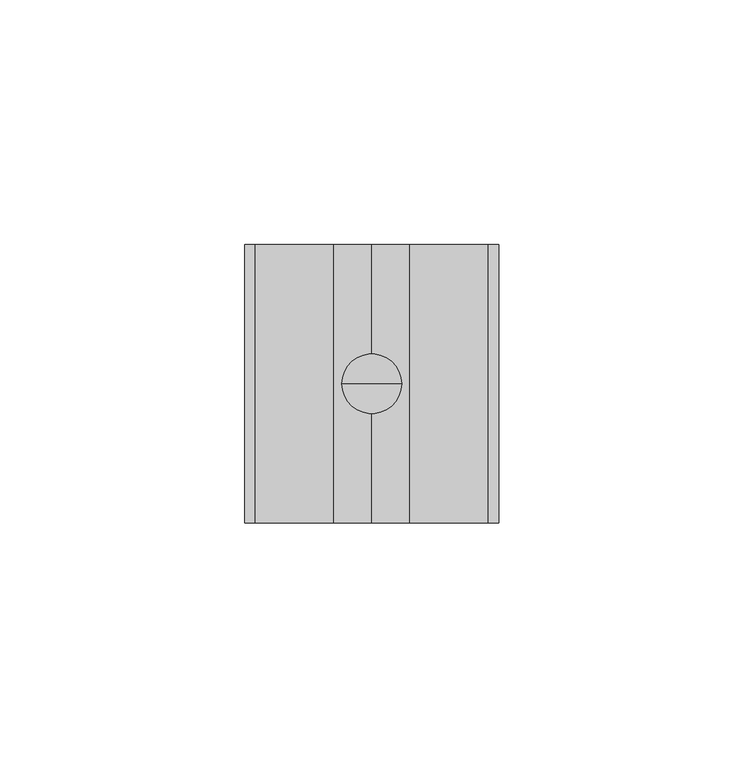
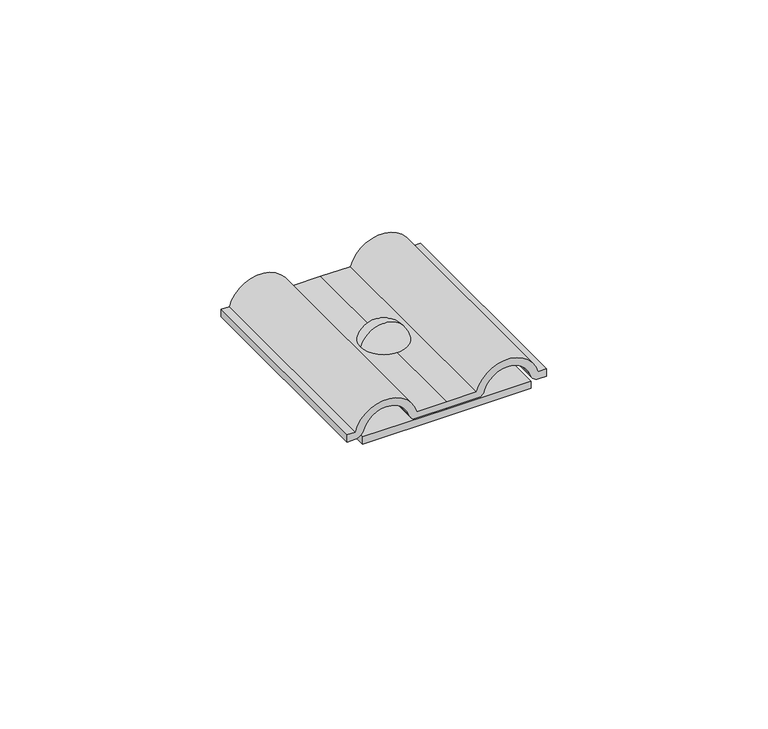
"""IFC4 building model written with IfcOpenShell, lengths in millimetres: proxy geometry, КНС_ПараллельныйЗажим_DKC : NG3108CC_Омедненная сталь."""

import ifcopenshell
import ifcopenshell.guid

model = None  # the IFC model being written
_history = None  # IfcOwnerHistory: only IFC2X3 demands one
_inside = {}  # id of a spatial element -> (the spatial element, [elements in it])
_under = {}  # id of a project, library or spatial element -> (it, [spatial elements below it])
_declared = {}  # id of a project -> (the project, [libraries it declares])
_typed = {}  # id of a type object -> (the type object, [elements of that type])
_made_of = {}  # id of a material, layer set ... -> (it, [elements and type objects made of it])


def new_model(schema):
    """Start an empty IFC model of exactly this schema.

    Asked for "IFC4X3", IfcOpenShell would pick the latest addendum, in which some entities
    have other attributes; the version numbers below select the first issue.
    IFC2X3 requires an IfcOwnerHistory on every rooted entity: one is made here for all.
    """
    global model, _history
    if schema == "IFC4X3":
        model = ifcopenshell.file(schema_version=(4, 3, 0, 0))
    else:
        model = ifcopenshell.file(schema=schema)
    _inside.clear()
    _under.clear()
    _declared.clear()
    _typed.clear()
    _made_of.clear()
    _history = None
    if model.schema == "IFC2X3":
        org = make("IfcOrganization", Name="unknown")
        user = make(
            "IfcPersonAndOrganization",
            ThePerson=make("IfcPerson", FamilyName="unknown"),
            TheOrganization=org,
        )
        app = make(
            "IfcApplication",
            ApplicationDeveloper=org,
            Version="unknown",
            ApplicationFullName="unknown",
            ApplicationIdentifier="unknown",
        )
        _history = make(
            "IfcOwnerHistory",
            OwningUser=user,
            OwningApplication=app,
            ChangeAction="ADDED",
            CreationDate=0,
        )
    return model


def make(cls, **values):
    """One entity of the class cls with the attributes given. An attribute that is None is left unset."""
    return model.create_entity(
        cls, **{name: value for name, value in values.items() if value is not None}
    )


def rooted(cls, **values):
    """An entity with a GlobalId (a new one), such as an element, a storey or a relation."""
    return make(cls, GlobalId=ifcopenshell.guid.new(), OwnerHistory=_history, **values)


def si_unit(unit_type, name, prefix=None):
    """IfcSIUnit, for example si_unit("LENGTHUNIT", "METRE", prefix="MILLI")."""
    return make("IfcSIUnit", UnitType=unit_type, Prefix=prefix, Name=name)


def assignment(units):
    """IfcUnitAssignment: the units of a project."""
    return None if units is None else make("IfcUnitAssignment", Units=units)


def point(xyz):
    """IfcCartesianPoint."""
    return None if xyz is None else make("IfcCartesianPoint", Coordinates=xyz)


def direction(xyz):
    """IfcDirection."""
    return None if xyz is None else make("IfcDirection", DirectionRatios=xyz)


def frame(location, z_axis=None, x_axis=None):
    """IfcAxis2Placement3D, a coordinate frame: its origin and axes. An axis left out is left unset."""
    return make(
        "IfcAxis2Placement3D",
        Location=point(location),
        Axis=direction(z_axis),
        RefDirection=direction(x_axis),
    )


def frame_2d(location, x_axis=None):
    """IfcAxis2Placement2D, a coordinate frame in the plane: its origin and x axis."""
    return make(
        "IfcAxis2Placement2D", Location=point(location), RefDirection=direction(x_axis)
    )


def origin():
    """The frame at (0, 0, 0) with its axes left unset."""
    return frame((0.0, 0.0, 0.0))


def place(relative_to, where):
    """IfcLocalPlacement: puts the frame where relative to a parent placement (None: the world)."""
    return make(
        "IfcLocalPlacement", PlacementRelTo=relative_to, RelativePlacement=where
    )


def context(
    kind, dimensions, precision=None, world=None, true_north=None, identifier=None
):
    """IfcGeometricRepresentationContext, for example the 3D "Model" context."""
    return make(
        "IfcGeometricRepresentationContext",
        ContextIdentifier=identifier,
        ContextType=kind,
        CoordinateSpaceDimension=dimensions,
        Precision=precision,
        WorldCoordinateSystem=world,
        TrueNorth=true_north,
    )


def project(units=None, contexts=None):
    """IfcProject with its units and contexts."""
    return rooted(
        "IfcProject",
        Name="project",
        RepresentationContexts=contexts,
        UnitsInContext=assignment(units),
    )


def spatial(cls, under=None, at=None, **own):
    """A site, building, storey or space (cls), placed at a placement, below another one or the project."""
    s = rooted(cls, ObjectPlacement=at, **own)
    if under is not None:
        _under.setdefault(under.id(), (under, []))[1].append(s)
    return s


def polyline(points):
    """IfcPolyline through the points."""
    return make("IfcPolyline", Points=[point(p) for p in points])


def circle_curve(where, radius):
    """IfcCircle in the frame where."""
    return make("IfcCircle", Position=where, Radius=radius)


def ellipse_curve(where, semi_axis1, semi_axis2):
    """IfcEllipse in the frame where."""
    return make(
        "IfcEllipse", Position=where, SemiAxis1=semi_axis1, SemiAxis2=semi_axis2
    )


def trimmed(basis, trim1, trim2, sense, master):
    """IfcTrimmedCurve: the piece of a basis curve between two trims."""
    return make(
        "IfcTrimmedCurve",
        BasisCurve=basis,
        Trim1=trim1,
        Trim2=trim2,
        SenseAgreement=sense,
        MasterRepresentation=master,
    )


def segment(curve, same_sense, transition):
    """IfcCompositeCurveSegment."""
    return make(
        "IfcCompositeCurveSegment",
        Transition=transition,
        SameSense=same_sense,
        ParentCurve=curve,
    )


def composite_curve(segments, self_intersect=None):
    """IfcCompositeCurve: segments joined end to end."""
    return make("IfcCompositeCurve", Segments=segments, SelfIntersect=self_intersect)


def outline(outer, holes=None, kind="AREA"):
    """IfcArbitraryClosedProfileDef: a profile drawn as a closed curve; with holes, ...WithVoids."""
    if holes is None:
        return make("IfcArbitraryClosedProfileDef", ProfileType=kind, OuterCurve=outer)
    return make(
        "IfcArbitraryProfileDefWithVoids",
        ProfileType=kind,
        OuterCurve=outer,
        InnerCurves=holes,
    )


def extrude(swept, where, along, depth):
    """IfcExtrudedAreaSolid: the profile swept, set in the frame where, extruded along a direction by depth."""
    return make(
        "IfcExtrudedAreaSolid",
        SweptArea=swept,
        Position=where,
        ExtrudedDirection=direction(along),
        Depth=depth,
    )


def shape(context_of_items, identifier, shape_type, items):
    """IfcShapeRepresentation: the items that make up one representation, for example the "Body"."""
    return make(
        "IfcShapeRepresentation",
        ContextOfItems=context_of_items,
        RepresentationIdentifier=identifier,
        RepresentationType=shape_type,
        Items=items,
    )


def source(mapping_origin, context_of_items, identifier, shape_type, items):
    """IfcRepresentationMap: a shape defined once, which mapped items show again and again."""
    return make(
        "IfcRepresentationMap",
        MappingOrigin=mapping_origin,
        MappedRepresentation=shape(context_of_items, identifier, shape_type, items),
    )


def transform(
    local_origin,
    x_axis=None,
    y_axis=None,
    z_axis=None,
    scale=None,
    scale2=None,
    scale3=None,
    uniform=True,
):
    """IfcCartesianTransformationOperator3D, or its non-uniform kind. x_axis, y_axis, z_axis: its Axis1, 2, 3."""
    if uniform:
        return make(
            "IfcCartesianTransformationOperator3D",
            Axis1=direction(x_axis),
            Axis2=direction(y_axis),
            LocalOrigin=point(local_origin),
            Scale=scale,
            Axis3=direction(z_axis),
        )
    return make(
        "IfcCartesianTransformationOperator3DnonUniform",
        Axis1=direction(x_axis),
        Axis2=direction(y_axis),
        LocalOrigin=point(local_origin),
        Scale=scale,
        Axis3=direction(z_axis),
        Scale2=scale2,
        Scale3=scale3,
    )


def mapped(mapping_source, mapping_target):
    """IfcMappedItem: shows the shape of a source again, moved by a transform."""
    return make(
        "IfcMappedItem", MappingSource=mapping_source, MappingTarget=mapping_target
    )


def made_of(thing, what):
    """Note that an element or type object is made of a material, layer set ...; save() writes the relation."""
    if what is not None:
        _made_of.setdefault(what.id(), (what, []))[1].append(thing)
    return thing


def element(
    cls,
    number,
    at=None,
    inside=None,
    cuts=None,
    type_object=None,
    material=None,
    context=None,
    identifier="Body",
    shape_type=None,
    held_by="IfcProductDefinitionShape",
    body=None,
    shapes=None,
    **own,
):
    """One element of the class cls, such as IfcWall. Its Tag is "e" and its number.

    at: its placement. inside: the storey or other place that contains it. cuts: it is an
    opening in that element (IfcRelVoidsElement). A single representation is given by context,
    identifier, shape_type and body (its items); several are given by shapes. held_by: the class
    of the entity that holds the representations. save() writes the other relations.
    """
    e = rooted(cls, Tag="e%d" % number, ObjectPlacement=at, **own)
    if body is not None:
        shapes = [shape(context, identifier, shape_type, body)]
    if shapes is not None:
        e.Representation = make(held_by, Representations=shapes)
    if inside is not None:
        _inside.setdefault(inside.id(), (inside, []))[1].append(e)
    if cuts is not None:
        rooted(
            "IfcRelVoidsElement", RelatingBuildingElement=cuts, RelatedOpeningElement=e
        )
    if type_object is not None:
        _typed.setdefault(type_object.id(), (type_object, []))[1].append(e)
    return made_of(e, material)


def aggregate(whole, parts):
    """IfcRelAggregates: a whole, such as a stair, and the parts it consists of."""
    return rooted("IfcRelAggregates", RelatingObject=whole, RelatedObjects=parts)


def save(model, path):
    """Write the relations noted so far, then the file.

    IfcRelAggregates (storeys below a building ...), IfcRelContainedInSpatialStructure (elements
    in a storey), IfcRelDefinesByType, IfcRelAssociatesMaterial and IfcRelDeclares: one each for
    every whole, place, type object, material and project.
    """
    for whole, parts in _under.values():
        aggregate(whole, parts)
    for where, things in _inside.values():
        rooted(
            "IfcRelContainedInSpatialStructure",
            RelatedElements=things,
            RelatingStructure=where,
        )
    for kind, things in _typed.values():
        rooted("IfcRelDefinesByType", RelatedObjects=things, RelatingType=kind)
    for what, things in _made_of.values():
        rooted("IfcRelAssociatesMaterial", RelatedObjects=things, RelatingMaterial=what)
    for by, libraries in _declared.values():
        rooted("IfcRelDeclares", RelatingContext=by, RelatedDefinitions=libraries)
    model.write(path)


def plane_surface(at):
    """IfcPlane: the flat surface through the origin of the frame at, square to its z axis."""
    return make("IfcPlane", Position=at)


def cylinder_surface(at, radius):
    """IfcCylindricalSurface: all points at the distance radius from the z axis of the frame at."""
    return make("IfcCylindricalSurface", Position=at, Radius=radius)


def revolved_surface(curve, axis_point, axis_direction):
    """IfcSurfaceOfRevolution: the curve turned about the line through axis_point along axis_direction."""
    return make(
        "IfcSurfaceOfRevolution",
        SweptCurve=make("IfcArbitraryOpenProfileDef", ProfileType="CURVE", Curve=curve),
        AxisPosition=make("IfcAxis1Placement", Location=point(axis_point), Axis=direction(axis_direction)),
    )


def advanced_brep(points, edges, surfaces, faces):
    """IfcAdvancedBrep: a solid bounded by faces that lie on surfaces and meet in shared edges.

    An edge is (start, end): straight between two places in points (the first is 0);
    or (start, end, curve); or (start, end, curve, False) where it runs against its curve.
    A face is (place in surfaces, loops), or (place, loops, False) where it looks against
    its surface's normal. A loop lists edges by number (the first is 1), with a minus sign
    where the edge is run from its end to its start. The first loop is the outer one.
    """
    corners = [point(p) for p in points]
    vertices = [make("IfcVertexPoint", VertexGeometry=c) for c in corners]
    made = []
    for start, end, *more in edges:
        made.append(
            make(
                "IfcEdgeCurve",
                EdgeStart=vertices[start],
                EdgeEnd=vertices[end],
                EdgeGeometry=more[0] if more else make("IfcPolyline", Points=[corners[start], corners[end]]),
                SameSense=more[1] if len(more) > 1 else True,
            )
        )
    hull = []
    for where, loops, *sense in faces:
        bounds = []
        for j, loop in enumerate(loops):
            ring = [make("IfcOrientedEdge", EdgeElement=made[abs(k) - 1], Orientation=k > 0) for k in loop]
            bounds.append(
                make(
                    "IfcFaceOuterBound" if j == 0 else "IfcFaceBound",
                    Bound=make("IfcEdgeLoop", EdgeList=ring),
                    Orientation=True,
                )
            )
        hull.append(make("IfcAdvancedFace", Bounds=bounds, FaceSurface=surfaces[where], SameSense=sense[0] if sense else True))
    return make("IfcAdvancedBrep", Outer=make("IfcClosedShell", CfsFaces=hull))


def security_devices_ac4f3ff4(model_context):
    return source(origin(), model_context, "Body", "SolidModel", [
        advanced_brep(
        [(0.0052023, 0.0, -1.0019399), (3.807283, 0.0, -1.0019399), (-3.7968784, 0.0, -1.0019399), (3.807283, 0.0, -2.9980601), (-3.7968784, 0.0, -2.9980601), (3.807283, 0.0, -17.0), (-3.7968784, 0.0, -17.0), (-3.7968784, 0.0, -7.7938791), (3.807283, 0.0, -7.7938791), (0.0052023, 0.0, -17.0), (6.7568441, 0.0258921, -2.9980601), (3.378422, 5.8774907, -2.9980601), (-3.378422, 5.8774907, -2.9980601), (-6.7568441, 0.0258921, -2.9980601), (-3.378422, -5.8257065, -2.9980601), (3.378422, -5.8257065, -2.9980601), (6.7568441, 0.0258921, -7.7938791), (3.378422, -5.8257065, -7.7938791), (-3.378422, -5.8257065, -7.7938791), (-6.7568441, 0.0258921, -7.7938791), (-3.378422, 5.8774907, -7.7938791), (3.378422, 5.8774907, -7.7938791)],
        [
            (0, 1),
            (1, 2, circle_curve(frame((0.0052023, 0.0, -1.0019399), z_axis=(0.0, 0.0, 1.0), x_axis=(1.0, 0.0, 0.0)), 3.8020807)),
            (2, 0),
            (2, 1, circle_curve(frame((0.0052023, 0.0, -1.0019399), z_axis=(0.0, 0.0, 1.0), x_axis=(1.0, 0.0, 0.0)), 3.8020807)),
            (1, 3),
            (3, 4, circle_curve(frame((0.0052023, 0.0, -2.9980601), z_axis=(0.0, 0.0, 1.0), x_axis=(1.0, 0.0, 0.0)), 3.8020807)),
            (4, 2),
            (5, 6, circle_curve(frame((0.0052023, 0.0, -17.0), z_axis=(0.0, 0.0, 1.0), x_axis=(1.0, 0.0, 0.0)), 3.8020807)),
            (6, 7),
            (7, 8, circle_curve(frame((0.0052023, 0.0, -7.7938791), z_axis=(0.0, 0.0, -1.0), x_axis=(1.0, 0.0, 0.0)), 3.8020807)),
            (8, 5),
            (4, 3, circle_curve(frame((0.0052023, 0.0, -2.9980601), z_axis=(0.0, 0.0, 1.0), x_axis=(1.0, 0.0, 0.0)), 3.8020807)),
            (6, 5, circle_curve(frame((0.0052023, 0.0, -17.0), z_axis=(0.0, 0.0, 1.0), x_axis=(1.0, 0.0, 0.0)), 3.8020807)),
            (8, 7, circle_curve(frame((0.0052023, 0.0, -7.7938791), z_axis=(0.0, 0.0, -1.0), x_axis=(1.0, 0.0, 0.0)), 3.8020807)),
            (5, 9),
            (9, 6),
            (10, 11),
            (11, 12),
            (12, 13),
            (13, 14),
            (14, 15),
            (15, 10),
            (16, 17),
            (17, 18),
            (18, 19),
            (19, 20),
            (20, 21),
            (21, 16),
            (10, 16),
            (21, 11),
            (20, 12),
            (19, 13),
            (18, 14),
            (17, 15),
        ],
        [
            plane_surface(frame((0.0052023, 0.0, -1.0019399), z_axis=(0.0, 0.0, 1.0), x_axis=(1.0, 0.0, 0.0))),
            cylinder_surface(frame((0.0052023, 0.0, 2.2113369), z_axis=(0.0, 0.0, 1.0), x_axis=(1.0, 0.0, 0.0)), 3.8020807),
            plane_surface(frame((0.0052023, 0.0, -17.0), z_axis=(0.0, 0.0, -1.0), x_axis=(1.0, 0.0, 0.0))),
            plane_surface(frame((6.2879163, 0.8380988, -2.9980601), z_axis=(0.0, 0.0, 1.0), x_axis=(-0.4999999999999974, 0.8660254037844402, 0.0))),
            plane_surface(frame((6.2879163, 0.8380988, -7.7938791), z_axis=(0.0, 0.0, -1.0), x_axis=(0.4999999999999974, -0.8660254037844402, 0.0))),
            plane_surface(frame((6.7568441, 0.0258921, -2.9980601), z_axis=(0.8660254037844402, 0.4999999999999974, 0.0), x_axis=(0.0, 0.0, -1.0))),
            plane_surface(frame((3.378422, 5.8774907, -2.9980601), z_axis=(0.0, 1.0, 0.0), x_axis=(0.0, 0.0, -1.0))),
            plane_surface(frame((-3.378422, 5.8774907, -2.9980601), z_axis=(-0.8660254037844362, 0.5000000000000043, 0.0), x_axis=(0.0, 0.0, -1.0))),
            plane_surface(frame((-6.7568441, 0.0258921, -2.9980601), z_axis=(-0.8660254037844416, -0.49999999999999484, 0.0), x_axis=(0.0, 0.0, -1.0))),
            plane_surface(frame((-3.378422, -5.8257065, -2.9980601), z_axis=(0.0, -1.0, 0.0), x_axis=(0.0, 0.0, -1.0))),
            plane_surface(frame((3.378422, -5.8257065, -2.9980601), z_axis=(0.8660254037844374, -0.5000000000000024, 0.0), x_axis=(0.0, 0.0, -1.0))),
        ],
        [
            (0, [[1, 2, 3]]),
            (0, [[-1, -3, 4]]),
            (1, [[-2, 5, 6, 7]]),
            (1, [[8, 9, 10, 11]]),
            (1, [[-4, -7, 12, -5]]),
            (1, [[13, -11, 14, -9]]),
            (2, [[-8, 15, 16]]),
            (2, [[-13, -16, -15]]),
            (3, [[17, 18, 19, 20, 21, 22], [-6, -12]]),
            (4, [[23, 24, 25, 26, 27, 28], [-10, -14]]),
            (5, [[-17, 29, -28, 30]]),
            (6, [[-18, -30, -27, 31]]),
            (7, [[-19, -31, -26, 32]]),
            (8, [[-20, -32, -25, 33]]),
            (9, [[-21, -33, -24, 34]]),
            (10, [[-22, -34, -23, -29]]),
        ],
    ),
        advanced_brep(
        [(0.0, 0.0, 2.9980601), (-6.0914555, 0.0, 2.9980601), (6.0914555, 0.0, 2.9980601), (0.0, 0.0, 7.4237616)],
        [
            (0, 1),
            (1, 2, circle_curve(frame((0.0, 0.0, 2.9980601), z_axis=(0.0, 0.0, -1.0), x_axis=(-1.0, 0.0, 0.0)), 6.0914555)),
            (2, 0),
            (2, 1, circle_curve(frame((0.0, 0.0, 2.9980601), z_axis=(0.0, 0.0, -1.0), x_axis=(-1.0, 0.0, 0.0)), 6.0914555)),
            (1, 3, circle_curve(frame((-0.1722355, 0.0, 1.255888), z_axis=(0.0, 1.0, 0.0), x_axis=(1.0, 0.0, 0.0)), 6.1702779)),
            (3, 2, circle_curve(frame((0.1722355, 0.0, 1.255888), z_axis=(0.0, 1.0, 0.0), x_axis=(-1.0, 0.0, 0.0)), 6.1702779)),
        ],
        [
            plane_surface(frame((0.0, 0.0, 2.9980601), z_axis=(0.0, 0.0, -1.0), x_axis=(-1.0, 0.0, 0.0))),
            revolved_surface(trimmed(ellipse_curve(frame((-0.1722355, 0.0, 1.255888), z_axis=(0.0, -1.0, 0.0), x_axis=(1.0, 0.0, 0.0)), 6.1702779, 6.1702779), [point((0.0, 0.0, 7.4237616))], [point((-6.0914555, 0.0, 2.9980601))], True, "CARTESIAN"), (0.0, 0.0, 10.103576), (0.0, 0.0, -1.0)),
        ],
        [
            (0, [[1, 2, 3]]),
            (0, [[-3, 4, -1]]),
            (1, [[-2, 5, 6]]),
            (1, [[-4, -6, -5]]),
        ],
    ),
        extrude(outline(polyline([(0.9980601, -21.996749), (-1.0019399, -21.996749), (-1.0019399, 0.003251), (-1.0019399, 21.996749), (0.9980601, 21.996749), (0.9980601, 0.0), (0.9980601, -21.996749)])), frame((0.0, -28.5, 0.0), z_axis=(0.0, 1.0, 0.0), x_axis=(0.0, 0.0, 1.0)), (0.0, 0.0, 1.0), 57.0),
        extrude(outline(composite_curve([segment(polyline([(0.9980601, -7.6484052), (0.9980601, 0.0), (0.9980601, 7.6484052)]), True, "CONTINUOUS"), segment(trimmed(circle_curve(frame_2d((3.2240525, 7.6484052)), 2.2259924), [point((0.9980601, 7.6484052))], [point((2.837513, 9.8405798))], False, "CARTESIAN"), True, "CONTINUOUS"), segment(trimmed(circle_curve(frame_2d((0.8747898, 15.8173791)), 6.2908196), [point((2.837513, 9.8405798))], [point((2.837513, 21.7941783))], True, "CARTESIAN"), True, "CONTINUOUS"), segment(trimmed(circle_curve(frame_2d((3.2240525, 23.986353)), 2.2259924), [point((2.837513, 21.7941783))], [point((0.9980601, 23.986353))], False, "CARTESIAN"), True, "CONTINUOUS"), segment(polyline([(0.9980601, 23.986353), (0.9980601, 26.0), (2.9980601, 26.0), (2.9980601, 23.8317046)]), True, "CONTINUOUS"), segment(trimmed(circle_curve(frame_2d((0.8747898, 15.8173791)), 8.2908196), [point((2.9980601, 23.8317046))], [point((2.9980601, 7.8030535))], False, "CARTESIAN"), True, "CONTINUOUS"), segment(polyline([(2.9980601, 7.8030535), (2.9980601, 0.0), (2.9980601, -7.8030535)]), True, "CONTINUOUS"), segment(trimmed(circle_curve(frame_2d((0.8747898, -15.8173791)), 8.2908196), [point((2.9980601, -7.8030535))], [point((2.9980601, -23.8317046))], False, "CARTESIAN"), True, "CONTINUOUS"), segment(polyline([(2.9980601, -23.8317046), (2.9980601, -26.0), (0.9980601, -26.0), (0.9980601, -23.986353)]), True, "CONTINUOUS"), segment(trimmed(circle_curve(frame_2d((3.2240525, -23.986353)), 2.2259924), [point((0.9980601, -23.986353))], [point((2.837513, -21.7941783))], False, "CARTESIAN"), True, "CONTINUOUS"), segment(trimmed(circle_curve(frame_2d((0.8747898, -15.8173791)), 6.2908196), [point((2.837513, -21.7941783))], [point((2.837513, -9.8405798))], True, "CARTESIAN"), True, "CONTINUOUS"), segment(trimmed(circle_curve(frame_2d((3.2240525, -7.6484052)), 2.2259924), [point((2.837513, -9.8405798))], [point((0.9980601, -7.6484052))], False, "CARTESIAN"), True, "CONTINUOUS")], self_intersect=False)), frame((0.0, -28.5, 0.0), z_axis=(0.0, 1.0, 0.0), x_axis=(0.0, 0.0, 1.0)), (0.0, 0.0, 1.0), 57.0),
    ])


if __name__ == "__main__":
    model = new_model("IFC4")
    model_context = context("Model", 3, world=origin())
    ifc_project = project(units=[si_unit("LENGTHUNIT", "METRE", prefix="MILLI")], contexts=[model_context])
    site = spatial("IfcSite", under=ifc_project)
    building = spatial("IfcBuilding", under=site)
    placement = place(None, origin())
    security_devices_shape = security_devices_ac4f3ff4(model_context)
    element("IfcBuildingElementProxy", 1, Name="КНС_ПараллельныйЗажим_DKC : NG3108CC_Омедненная сталь", ObjectType="КНС_ПараллельныйЗажим_DKC : NG3108CC_Омедненная сталь", at=placement, inside=building, context=model_context, shape_type="MappedRepresentation", body=[
        mapped(security_devices_shape, transform((0.0, 0.0, 0.0), x_axis=(1.0, 0.0, 0.0), y_axis=(0.0, 1.0, 0.0), z_axis=(0.0, 0.0, 1.0))),
    ])
    save(model, "model.ifc")
